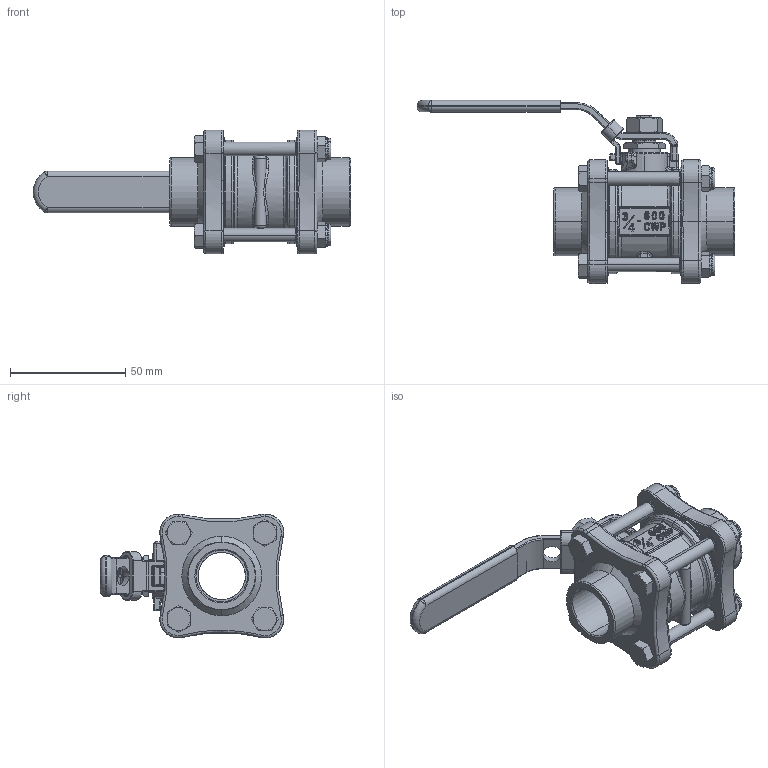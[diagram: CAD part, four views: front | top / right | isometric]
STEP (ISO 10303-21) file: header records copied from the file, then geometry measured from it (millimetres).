
FILE_DESCRIPTION (( 'STEP AP203' ), '1' );
FILE_NAME ('S-20.STEP', '2025-02-27T05:18:39', ( 'user' ), ( '' ), 'SwSTEP 2.0', 'SolidWorks 2012', '' );
FILE_SCHEMA (( 'CONFIG_CONTROL_DESIGN' ));
Products named in the file (17): S-20; 15-HANDLE NUT; 掛鎖; 14-HANDLE COVER; 13-HANDLE; 12-CAP BOLT; 11-CAP NUT; 10-GLAND; 9-BODY SEAL; 8-GLAND PACKING; 7-0-RING; 6-THRUST WASHER; 5-SEAT; 4-STEM; 3-BALL; 2-CAP; 1-BODY
Assembly tree (26 placements, depth 2):
  S-20
    1-BODY
    2-CAP  x2
    3-BALL
    4-STEM
    5-SEAT  x2
    6-THRUST WASHER
    7-0-RING  x2
    8-GLAND PACKING
    9-BODY SEAL  x2
    10-GLAND
    11-CAP NUT  x4
    12-CAP BOLT  x4
    13-HANDLE
    14-HANDLE COVER
    掛鎖
    15-HANDLE NUT
Bounding box: 137.63 x 79.28 x 53.6 mm (x, y, z)
Volume: 98497.2 mm3; surface area: 62273.4 mm2
Topology: 26 solids, 26 shells, 1585 faces, 3934 edges, 2387 vertices
Faces by surface type: cylinder 507, bspline 403, plane 319, cone 166, torus 138, sphere 52
Entity records: 80313 total; most frequent: CARTESIAN_POINT 54025, ORIENTED_EDGE 5600, DIRECTION 4362, EDGE_CURVE 2800, AXIS2_PLACEMENT_3D 1794, VERTEX_POINT 1707, EDGE_LOOP 1231, FACE_OUTER_BOUND 1159
